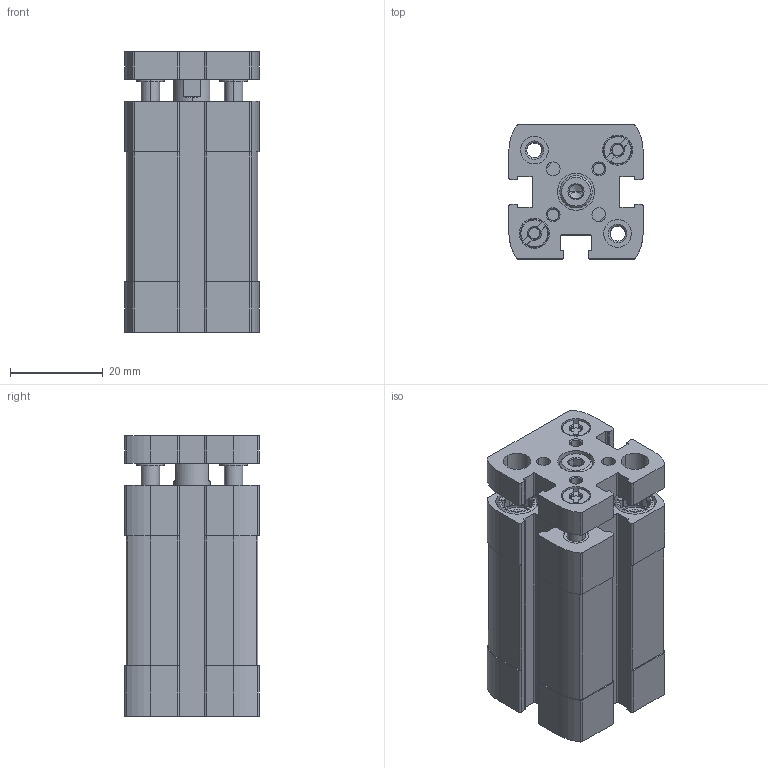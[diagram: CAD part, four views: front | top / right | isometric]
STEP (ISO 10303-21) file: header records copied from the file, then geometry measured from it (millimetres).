
FILE_DESCRIPTION (( 'STEP AP203' ), '1' );
FILE_NAME ('CCNG16-15.STEP', '2018-08-03T11:31:34', ( '' ), ( '' ), 'SwSTEP 2.0', 'SolidWorks 2018', '' );
FILE_SCHEMA (( 'CONFIG_CONTROL_DESIGN' ));
Length unit declared in the file: millimetre
Products named in the file (1): CCNG16-15
Bounding box: 29 x 29 x 60.7 mm (x, y, z)
Volume: 35332.4 mm3; surface area: 19911 mm2
Topology: 2 solids, 6 shells, 549 faces, 1412 edges, 915 vertices
Faces by surface type: plane 257, cylinder 214, cone 70, torus 8
Entity records: 17085 total; most frequent: CARTESIAN_POINT 3367, DIRECTION 2910, ORIENTED_EDGE 2820, EDGE_CURVE 1410, AXIS2_PLACEMENT_3D 1080, VERTEX_POINT 915, LINE 750, VECTOR 750
